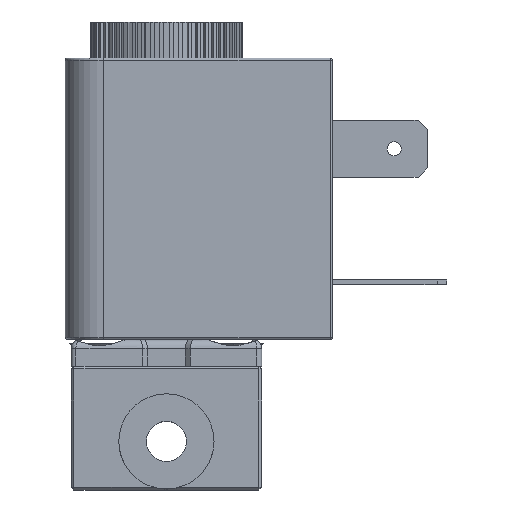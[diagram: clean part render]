
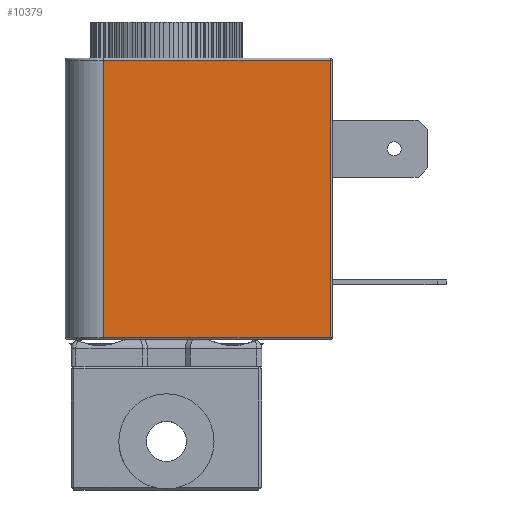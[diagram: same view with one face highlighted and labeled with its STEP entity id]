
A CAD part, left-side view. The second image highlights one B-rep face of the part: STEP entity #10379.
In plain terms, the highlighted planar face has unit normal (-1, 0, 0).
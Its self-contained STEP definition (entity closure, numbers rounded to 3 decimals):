
#618 = LINE ( 'NONE', #12190, #16980 ) ;
#1636 = LINE ( 'NONE', #15833, #17961 ) ;
#2428 = VERTEX_POINT ( 'NONE', #17894 ) ;
#3403 = EDGE_CURVE ( 'NONE', #2428, #13838, #618, .T. ) ;
#3940 = EDGE_CURVE ( 'NONE', #13838, #20076, #9556, .T. ) ;
#4637 = EDGE_LOOP ( 'NONE', ( #10979, #19265, #14595, #15162 ) ) ;
#4983 = CARTESIAN_POINT ( 'NONE',  ( -13.53, -40.188, 38.8 ) ) ;
#5874 = FACE_OUTER_BOUND ( 'NONE', #4637, .T. ) ;
#6429 = VECTOR ( 'NONE', #9542, 1000. ) ;
#6918 = LINE ( 'NONE', #15839, #6429 ) ;
#8013 = DIRECTION ( 'NONE',  ( 0., 0., -1. ) ) ;
#8829 = DIRECTION ( 'NONE',  ( 0., 0., 1. ) ) ;
#9309 = EDGE_CURVE ( 'NONE', #16374, #2428, #6918, .T. ) ;
#9542 = DIRECTION ( 'NONE',  ( 0., -1., 0. ) ) ;
#9556 = LINE ( 'NONE', #15257, #12777 ) ;
#9677 = CARTESIAN_POINT ( 'NONE',  ( -13.53, -16.188, 9.5 ) ) ;
#9754 = DIRECTION ( 'NONE',  ( 0., 1., 0. ) ) ;
#10379 = ADVANCED_FACE ( 'NONE', ( #5874 ), #17573, .F. ) ;
#10500 = DIRECTION ( 'NONE',  ( 0., 1., 0. ) ) ;
#10899 = EDGE_CURVE ( 'NONE', #20076, #16374, #1636, .T. ) ;
#10979 = ORIENTED_EDGE ( 'NONE', *, *, #10899, .T. ) ;
#12190 = CARTESIAN_POINT ( 'NONE',  ( -13.53, -39.988, 38.8 ) ) ;
#12777 = VECTOR ( 'NONE', #10500, 1000. ) ;
#13838 = VERTEX_POINT ( 'NONE', #20012 ) ;
#14595 = ORIENTED_EDGE ( 'NONE', *, *, #3403, .T. ) ;
#15162 = ORIENTED_EDGE ( 'NONE', *, *, #3940, .T. ) ;
#15257 = CARTESIAN_POINT ( 'NONE',  ( -13.53, -40.188, 38.6 ) ) ;
#15833 = CARTESIAN_POINT ( 'NONE',  ( -13.53, -16.188, 38.8 ) ) ;
#15839 = CARTESIAN_POINT ( 'NONE',  ( -13.53, -40.188, 9.5 ) ) ;
#16374 = VERTEX_POINT ( 'NONE', #9677 ) ;
#16980 = VECTOR ( 'NONE', #8829, 1000. ) ;
#17573 = PLANE ( 'NONE',  #18340 ) ;
#17894 = CARTESIAN_POINT ( 'NONE',  ( -13.53, -39.988, 9.5 ) ) ;
#17961 = VECTOR ( 'NONE', #8013, 1000. ) ;
#18340 = AXIS2_PLACEMENT_3D ( 'NONE', #4983, #19207, #9754 ) ;
#19207 = DIRECTION ( 'NONE',  ( 1., 0., 0. ) ) ;
#19265 = ORIENTED_EDGE ( 'NONE', *, *, #9309, .T. ) ;
#20012 = CARTESIAN_POINT ( 'NONE',  ( -13.53, -39.988, 38.6 ) ) ;
#20076 = VERTEX_POINT ( 'NONE', #20349 ) ;
#20349 = CARTESIAN_POINT ( 'NONE',  ( -13.53, -16.188, 38.6 ) ) ;
